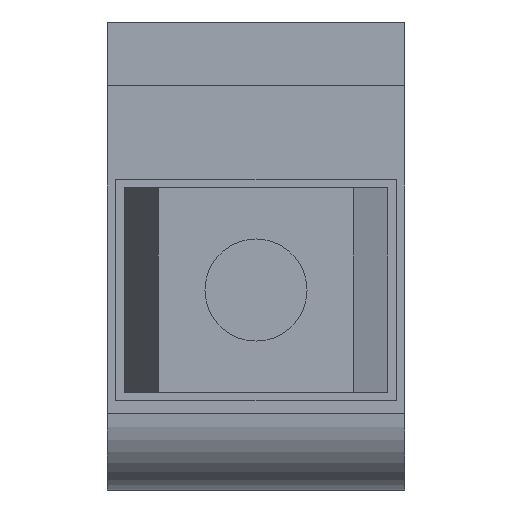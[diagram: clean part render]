
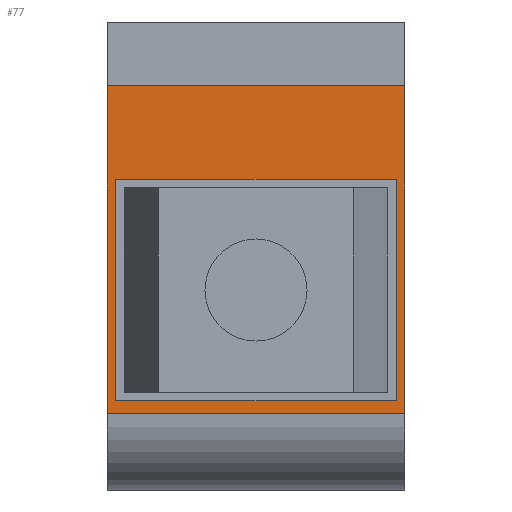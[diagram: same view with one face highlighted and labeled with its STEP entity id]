
A CAD part, front view. The second image highlights one B-rep face of the part: STEP entity #77.
In plain terms, the highlighted planar face has unit normal (0, -1, 0).
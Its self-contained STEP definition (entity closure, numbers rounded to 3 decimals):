
#16 = VERTEX_POINT ( 'NONE', #664 ) ;
#24 = EDGE_CURVE ( 'NONE', #458, #3000, #679, .T. ) ;
#64 = ORIENTED_EDGE ( 'NONE', *, *, #24, .F. ) ;
#77 = ADVANCED_FACE ( 'NONE', ( #782, #783 ), #784, .T. ) ;
#144 = EDGE_CURVE ( 'NONE', #3201, #3030, #908, .T. ) ;
#204 = EDGE_LOOP ( 'NONE', ( #64, #550, #538, #559 ) ) ;
#355 = EDGE_CURVE ( 'NONE', #3201, #16, #1490, .T. ) ;
#420 = VERTEX_POINT ( 'NONE', #1699 ) ;
#432 = EDGE_CURVE ( 'NONE', #16, #484, #1737, .T. ) ;
#458 = VERTEX_POINT ( 'NONE', #1817 ) ;
#483 = EDGE_LOOP ( 'NONE', ( #3093, #3258, #2716, #3036 ) ) ;
#484 = VERTEX_POINT ( 'NONE', #1907 ) ;
#538 = ORIENTED_EDGE ( 'NONE', *, *, #2751, .F. ) ;
#550 = ORIENTED_EDGE ( 'NONE', *, *, #3107, .F. ) ;
#559 = ORIENTED_EDGE ( 'NONE', *, *, #3019, .F. ) ;
#664 = CARTESIAN_POINT ( 'NONE',  ( 3.5, -1.8, 7.7 ) ) ;
#679 = LINE ( 'NONE', #680, #681 ) ;
#680 = CARTESIAN_POINT ( 'NONE',  ( -3.3, -1.8, 0.3 ) ) ;
#681 = VECTOR ( 'NONE', #682, 1000. ) ;
#682 = DIRECTION ( 'NONE',  ( 1., 0., 0. ) ) ;
#782 = FACE_OUTER_BOUND ( 'NONE', #483, .T. ) ;
#783 = FACE_BOUND ( 'NONE', #204, .T. ) ;
#784 = PLANE ( 'NONE',  #785 ) ;
#785 = AXIS2_PLACEMENT_3D ( 'NONE', #786, #787, #790 ) ;
#786 = CARTESIAN_POINT ( 'NONE',  ( -3.5, -1.8, 7.7 ) ) ;
#787 = DIRECTION ( 'NONE',  ( 0., -1., 0. ) ) ;
#790 = DIRECTION ( 'NONE',  ( 0., 0., -1. ) ) ;
#908 = LINE ( 'NONE', #909, #910 ) ;
#909 = CARTESIAN_POINT ( 'NONE',  ( -3.5, -1.8, 7.7 ) ) ;
#910 = VECTOR ( 'NONE', #911, 1000. ) ;
#911 = DIRECTION ( 'NONE',  ( 0., 0., -1. ) ) ;
#1044 = CARTESIAN_POINT ( 'NONE',  ( -3.3, -1.8, 5.5 ) ) ;
#1490 = LINE ( 'NONE', #1491, #1492 ) ;
#1491 = CARTESIAN_POINT ( 'NONE',  ( -3.5, -1.8, 7.7 ) ) ;
#1492 = VECTOR ( 'NONE', #1493, 1000. ) ;
#1493 = DIRECTION ( 'NONE',  ( 1., 0., 0. ) ) ;
#1669 = VERTEX_POINT ( 'NONE', #1044 ) ;
#1699 = CARTESIAN_POINT ( 'NONE',  ( 3.3, -1.8, 5.5 ) ) ;
#1737 = LINE ( 'NONE', #1738, #1739 ) ;
#1738 = CARTESIAN_POINT ( 'NONE',  ( 3.5, -1.8, 7.7 ) ) ;
#1739 = VECTOR ( 'NONE', #1740, 1000. ) ;
#1740 = DIRECTION ( 'NONE',  ( 0., 0., -1. ) ) ;
#1817 = CARTESIAN_POINT ( 'NONE',  ( -3.3, -1.8, 0.3 ) ) ;
#1828 = LINE ( 'NONE', #1829, #1830 ) ;
#1829 = CARTESIAN_POINT ( 'NONE',  ( -3.3, -1.8, 5.5 ) ) ;
#1830 = VECTOR ( 'NONE', #1831, 1000. ) ;
#1831 = DIRECTION ( 'NONE',  ( -1., 0., 0. ) ) ;
#1907 = CARTESIAN_POINT ( 'NONE',  ( 3.5, -1.8, 0. ) ) ;
#2116 = CARTESIAN_POINT ( 'NONE',  ( -3.5, -1.8, 7.7 ) ) ;
#2214 = CARTESIAN_POINT ( 'NONE',  ( 3.3, -1.8, 0.3 ) ) ;
#2285 = LINE ( 'NONE', #2286, #2287 ) ;
#2286 = CARTESIAN_POINT ( 'NONE',  ( 3.3, -1.8, 0.3 ) ) ;
#2287 = VECTOR ( 'NONE', #2288, 1000. ) ;
#2288 = DIRECTION ( 'NONE',  ( 0., 0., 1. ) ) ;
#2344 = CARTESIAN_POINT ( 'NONE',  ( -3.5, -1.8, 0. ) ) ;
#2403 = LINE ( 'NONE', #2404, #2405 ) ;
#2404 = CARTESIAN_POINT ( 'NONE',  ( 3.5, -1.8, 0. ) ) ;
#2405 = VECTOR ( 'NONE', #2406, 1000. ) ;
#2406 = DIRECTION ( 'NONE',  ( -1., 0., 0. ) ) ;
#2615 = LINE ( 'NONE', #2616, #2617 ) ;
#2616 = CARTESIAN_POINT ( 'NONE',  ( -3.3, -1.8, 0.3 ) ) ;
#2617 = VECTOR ( 'NONE', #2618, 1000. ) ;
#2618 = DIRECTION ( 'NONE',  ( 0., 0., -1. ) ) ;
#2716 = ORIENTED_EDGE ( 'NONE', *, *, #432, .F. ) ;
#2751 = EDGE_CURVE ( 'NONE', #420, #1669, #1828, .T. ) ;
#3000 = VERTEX_POINT ( 'NONE', #2214 ) ;
#3019 = EDGE_CURVE ( 'NONE', #3000, #420, #2285, .T. ) ;
#3030 = VERTEX_POINT ( 'NONE', #2344 ) ;
#3036 = ORIENTED_EDGE ( 'NONE', *, *, #355, .F. ) ;
#3041 = EDGE_CURVE ( 'NONE', #484, #3030, #2403, .T. ) ;
#3093 = ORIENTED_EDGE ( 'NONE', *, *, #144, .T. ) ;
#3107 = EDGE_CURVE ( 'NONE', #1669, #458, #2615, .T. ) ;
#3201 = VERTEX_POINT ( 'NONE', #2116 ) ;
#3258 = ORIENTED_EDGE ( 'NONE', *, *, #3041, .F. ) ;
